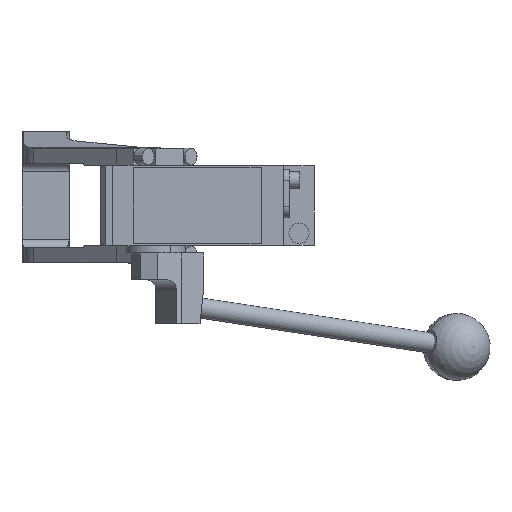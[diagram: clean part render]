
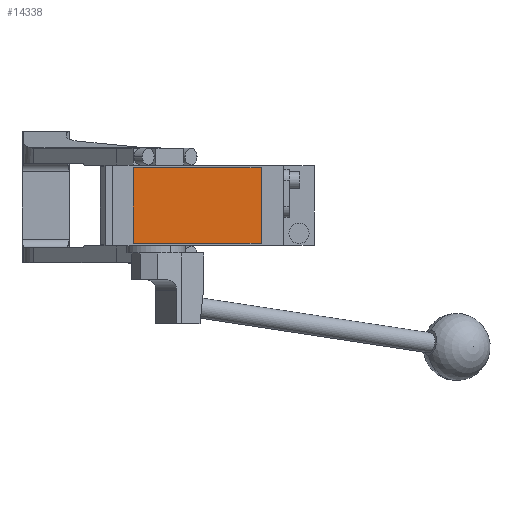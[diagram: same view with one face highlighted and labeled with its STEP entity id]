
A CAD part, front view. The second image highlights one B-rep face of the part: STEP entity #14338.
In plain terms, the highlighted planar face has unit normal (0, -1, 0).
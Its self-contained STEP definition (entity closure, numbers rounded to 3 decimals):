
#46 = DIRECTION ( 'NONE',  ( 0., 0., -1. ) ) ;
#374 = DIRECTION ( 'NONE',  ( 0., 0., 1. ) ) ;
#661 = AXIS2_PLACEMENT_3D ( 'NONE', #4559, #8280, #2421 ) ;
#2331 = CARTESIAN_POINT ( 'NONE',  ( -7., -280.5, 22.5 ) ) ;
#2421 = DIRECTION ( 'NONE',  ( 0., 0., -1. ) ) ;
#2464 = DIRECTION ( 'NONE',  ( -1., 0., 0. ) ) ;
#3209 = CARTESIAN_POINT ( 'NONE',  ( -7., -280.5, -22.5 ) ) ;
#3369 = CARTESIAN_POINT ( 'NONE',  ( -7., -280.5, 22.5 ) ) ;
#3407 = LINE ( 'NONE', #11492, #3662 ) ;
#3662 = VECTOR ( 'NONE', #2464, 1000. ) ;
#3757 = ORIENTED_EDGE ( 'NONE', *, *, #5381, .T. ) ;
#3881 = VERTEX_POINT ( 'NONE', #10153 ) ;
#4189 = DIRECTION ( 'NONE',  ( 1., 0., 0. ) ) ;
#4559 = CARTESIAN_POINT ( 'NONE',  ( 0., -280.5, 0. ) ) ;
#5381 = EDGE_CURVE ( 'NONE', #8901, #6901, #12782, .T. ) ;
#5787 = PLANE ( 'NONE',  #661 ) ;
#6274 = VERTEX_POINT ( 'NONE', #10317 ) ;
#6426 = ORIENTED_EDGE ( 'NONE', *, *, #8360, .T. ) ;
#6766 = FACE_OUTER_BOUND ( 'NONE', #6770, .T. ) ;
#6770 = EDGE_LOOP ( 'NONE', ( #3757, #9353, #14541, #6426 ) ) ;
#6901 = VERTEX_POINT ( 'NONE', #8755 ) ;
#8280 = DIRECTION ( 'NONE',  ( 0., -1., 0. ) ) ;
#8360 = EDGE_CURVE ( 'NONE', #6274, #8901, #3407, .T. ) ;
#8755 = CARTESIAN_POINT ( 'NONE',  ( -7., -280.5, -22.5 ) ) ;
#8901 = VERTEX_POINT ( 'NONE', #3369 ) ;
#9353 = ORIENTED_EDGE ( 'NONE', *, *, #9825, .T. ) ;
#9825 = EDGE_CURVE ( 'NONE', #6901, #3881, #14547, .T. ) ;
#10153 = CARTESIAN_POINT ( 'NONE',  ( 69., -280.5, -22.5 ) ) ;
#10317 = CARTESIAN_POINT ( 'NONE',  ( 69., -280.5, 22.5 ) ) ;
#11492 = CARTESIAN_POINT ( 'NONE',  ( -7., -280.5, 22.5 ) ) ;
#11633 = VECTOR ( 'NONE', #4189, 1000. ) ;
#11994 = VECTOR ( 'NONE', #46, 1000. ) ;
#12782 = LINE ( 'NONE', #2331, #11994 ) ;
#12951 = CARTESIAN_POINT ( 'NONE',  ( 69., -280.5, 22.5 ) ) ;
#13946 = EDGE_CURVE ( 'NONE', #3881, #6274, #13949, .T. ) ;
#13949 = LINE ( 'NONE', #12951, #14921 ) ;
#14338 = ADVANCED_FACE ( 'NONE', ( #6766 ), #5787, .T. ) ;
#14541 = ORIENTED_EDGE ( 'NONE', *, *, #13946, .T. ) ;
#14547 = LINE ( 'NONE', #3209, #11633 ) ;
#14921 = VECTOR ( 'NONE', #374, 1000. ) ;
